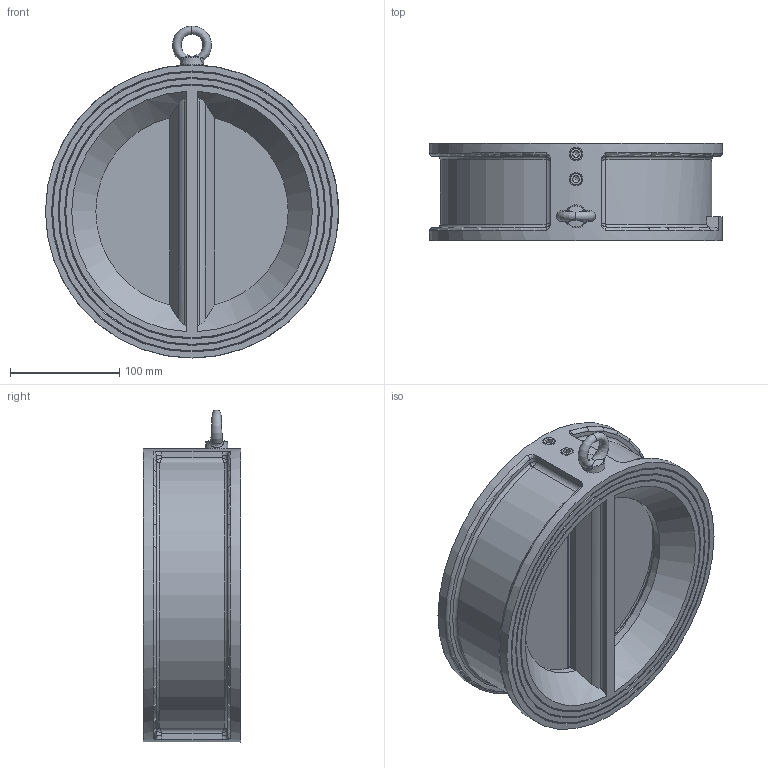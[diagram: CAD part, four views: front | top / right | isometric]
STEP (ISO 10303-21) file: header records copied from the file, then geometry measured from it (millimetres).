
FILE_DESCRIPTION (( 'STEP AP203' ), '1' );
FILE_NAME ('5306 DN200 ×°Åä PN10 PN16.STEP', '2025-07-22T01:47:25', ( '' ), ( '' ), 'SwSTEP 2.0', 'SolidWorks 2018', '' );
FILE_SCHEMA (( 'CONFIG_CONTROL_DESIGN' ));
Length unit declared in the file: millimetre
Products named in the file (7): 200蝶; 5306 DN200 概极; 5306 DN200 概粣; GB╱T 825-1988[吊环螺钉M8]_M8; GB╱T 77-2007[内六角平端紧定螺钉M12×12]_M12×12; 5306 DN200 概啣; 5306 DN200 蚾饜 PN10 PN16
Assembly tree (11 placements, depth 2):
  5306 DN200 蚾饜 PN10 PN16
    5306 DN200 概极
    200蝶
    5306 DN200 概粣  x2
    GB╱T 77-2007[内六角平端紧定螺钉M12×12]_M12×12  x4
    5306 DN200 概啣  x2
    GB╱T 825-1988[吊环螺钉M8]_M8
Bounding box: 268 x 89 x 303.6 mm (x, y, z)
Volume: 1964138.4 mm3; surface area: 374641.4 mm2
Topology: 11 solids, 13 shells, 303 faces, 697 edges, 417 vertices
Faces by surface type: plane 129, cylinder 78, cone 42, bspline 41, torus 13
Full cylindrical faces by diameter (mm): 6.8 x1, 8 x1, 10 x2, 10.4 x4, 10.6 x4, 12 x4, 13 x5, 224 x2, 268 x1
Entity records: 10202 total; most frequent: CARTESIAN_POINT 4991, ORIENTED_EDGE 864, DIRECTION 856, EDGE_CURVE 432, AXIS2_PLACEMENT_3D 358, EDGE_LOOP 294, VERTEX_POINT 288, FACE_OUTER_BOUND 237
